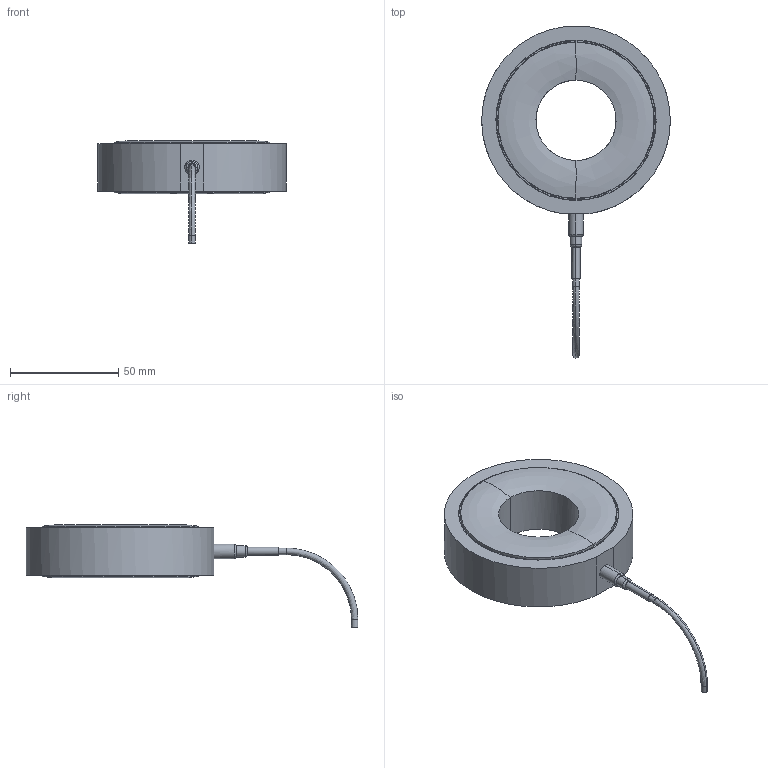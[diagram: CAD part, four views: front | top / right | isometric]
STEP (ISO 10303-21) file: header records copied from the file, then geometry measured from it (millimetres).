
FILE_DESCRIPTION (( 'STEP AP214' ), '1' );
FILE_NAME ('Soemer-SM71-M36-1000kN.STEP', '2023-09-26T09:47:42', ( '' ), ( '' ), 'SwSTEP 2.0', 'SolidWorks 2019', '' );
FILE_SCHEMA (( 'AUTOMOTIVE_DESIGN' ));
Length unit declared in the file: millimetre
Products named in the file (2): Soemer-SM71-M36-1000kN
Bounding box: 87.1 x 153.25 x 47.25 mm (x, y, z)
Volume: 113323.7 mm3; surface area: 20187.3 mm2
Topology: 1 solids, 1 shells, 46 faces, 92 edges, 52 vertices
Faces by surface type: bspline 39, plane 7
Entity records: 3487 total; most frequent: CARTESIAN_POINT 2747, ORIENTED_EDGE 184, EDGE_CURVE 92, B_SPLINE_CURVE_WITH_KNOTS 68, VERTEX_POINT 52, EDGE_LOOP 52, FACE_OUTER_BOUND 46, ADVANCED_FACE 46
